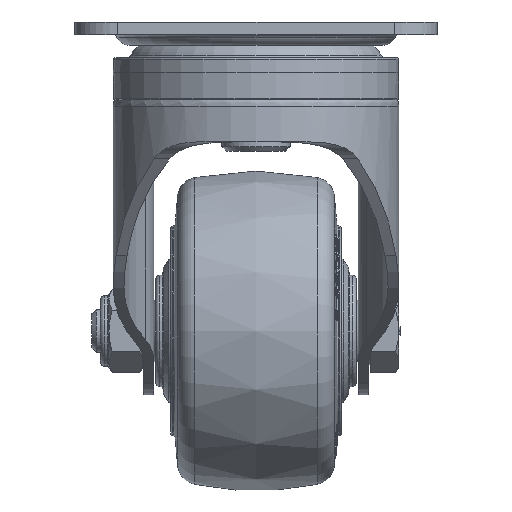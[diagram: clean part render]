
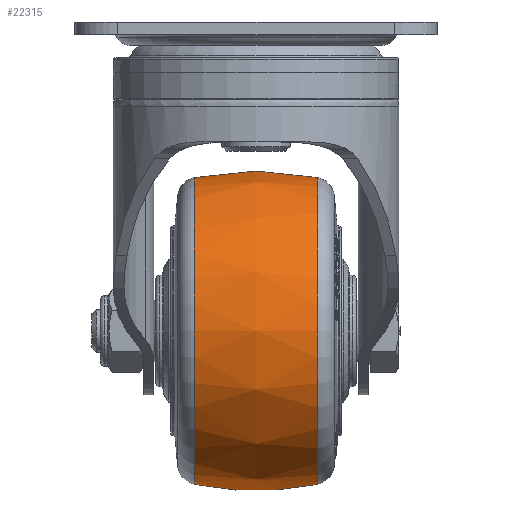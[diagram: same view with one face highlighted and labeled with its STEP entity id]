
A CAD part, left-side view. The second image highlights one B-rep face of the part: STEP entity #22315.
In plain terms, the highlighted free-form (B-spline) face has degree [2, 2] with [3, 9] control points.
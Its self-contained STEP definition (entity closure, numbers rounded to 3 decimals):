
#15=(
BOUNDED_SURFACE()
B_SPLINE_SURFACE(2,2,((#42283,#42284,#42285,#42286,#42287,#42288,#42289,
#42290,#42291),(#42292,#42293,#42294,#42295,#42296,#42297,#42298,#42299,
#42300),(#42301,#42302,#42303,#42304,#42305,#42306,#42307,#42308,#42309)),
 .UNSPECIFIED.,.F.,.T.,.F.)
B_SPLINE_SURFACE_WITH_KNOTS((3,3),(3,2,2,2,3),(-0.208,0.208),
(-3.142,-1.571,0.,1.571,3.142),
 .UNSPECIFIED.)
GEOMETRIC_REPRESENTATION_ITEM()
RATIONAL_B_SPLINE_SURFACE(((1.,0.707,1.,0.707,1.,
0.707,1.,0.707,1.),(0.978,0.692,
0.978,0.692,0.978,0.692,
0.978,0.692,0.978),(1.,0.707,
1.,0.707,1.,0.707,1.,0.707,1.)))
REPRESENTATION_ITEM('')
SURFACE()
);
#7143=FACE_OUTER_BOUND('',#8499,.T.);
#8499=EDGE_LOOP('',(#20984,#20985,#20986,#20987));
#8813=CIRCLE('',#23448,35.992);
#8832=CIRCLE('',#23476,35.992);
#8834=CIRCLE('',#23478,70.);
#11024=VERTEX_POINT('',#42233);
#11039=VERTEX_POINT('',#42280);
#14336=EDGE_CURVE('',#11024,#11024,#8813,.T.);
#14358=EDGE_CURVE('',#11039,#11039,#8832,.T.);
#14360=EDGE_CURVE('',#11024,#11039,#8834,.T.);
#20984=ORIENTED_EDGE('',*,*,#14336,.F.);
#20985=ORIENTED_EDGE('',*,*,#14360,.T.);
#20986=ORIENTED_EDGE('',*,*,#14358,.T.);
#20987=ORIENTED_EDGE('',*,*,#14360,.F.);
#22315=ADVANCED_FACE('',(#7143),#15,.F.);
#23448=AXIS2_PLACEMENT_3D('',#42235,#27283,#27284);
#23476=AXIS2_PLACEMENT_3D('',#42281,#27342,#27343);
#23478=AXIS2_PLACEMENT_3D('',#42310,#27346,#27347);
#27283=DIRECTION('center_axis',(0.,-1.,0.));
#27284=DIRECTION('ref_axis',(0.,0.,
1.));
#27342=DIRECTION('center_axis',(0.,-1.,0.));
#27343=DIRECTION('ref_axis',(0.,0.,
1.));
#27346=DIRECTION('center_axis',(1.,0.,0.));
#27347=DIRECTION('ref_axis',(0.,0.,
-1.));
#42233=CARTESIAN_POINT('',(40.,-14.451,-107.292));
#42235=CARTESIAN_POINT('Origin',(40.,-14.451,-71.3));
#42280=CARTESIAN_POINT('',(40.,14.451,-107.292));
#42281=CARTESIAN_POINT('Origin',(40.,14.451,-71.3));
#42283=CARTESIAN_POINT('Ctrl Pts',(40.,14.451,-107.292));
#42284=CARTESIAN_POINT('Ctrl Pts',(75.992,14.451,-107.292));
#42285=CARTESIAN_POINT('Ctrl Pts',(75.992,14.451,-71.3));
#42286=CARTESIAN_POINT('Ctrl Pts',(75.992,14.451,-35.308));
#42287=CARTESIAN_POINT('Ctrl Pts',(40.,14.451,-35.308));
#42288=CARTESIAN_POINT('Ctrl Pts',(4.008,14.451,-35.308));
#42289=CARTESIAN_POINT('Ctrl Pts',(4.008,14.451,-71.3));
#42290=CARTESIAN_POINT('Ctrl Pts',(4.008,14.451,-107.292));
#42291=CARTESIAN_POINT('Ctrl Pts',(40.,14.451,-107.292));
#42292=CARTESIAN_POINT('Ctrl Pts',(40.,0.,
-110.341));
#42293=CARTESIAN_POINT('Ctrl Pts',(79.041,0.,
-110.341));
#42294=CARTESIAN_POINT('Ctrl Pts',(79.041,0.,
-71.3));
#42295=CARTESIAN_POINT('Ctrl Pts',(79.041,0.,
-32.259));
#42296=CARTESIAN_POINT('Ctrl Pts',(40.,0.,
-32.259));
#42297=CARTESIAN_POINT('Ctrl Pts',(0.959,0.,
-32.259));
#42298=CARTESIAN_POINT('Ctrl Pts',(0.959,0.,
-71.3));
#42299=CARTESIAN_POINT('Ctrl Pts',(0.959,0.,
-110.341));
#42300=CARTESIAN_POINT('Ctrl Pts',(40.,0.,
-110.341));
#42301=CARTESIAN_POINT('Ctrl Pts',(40.,-14.451,-107.292));
#42302=CARTESIAN_POINT('Ctrl Pts',(75.992,-14.451,-107.292));
#42303=CARTESIAN_POINT('Ctrl Pts',(75.992,-14.451,-71.3));
#42304=CARTESIAN_POINT('Ctrl Pts',(75.992,-14.451,-35.308));
#42305=CARTESIAN_POINT('Ctrl Pts',(40.,-14.451,-35.308));
#42306=CARTESIAN_POINT('Ctrl Pts',(4.008,-14.451,-35.308));
#42307=CARTESIAN_POINT('Ctrl Pts',(4.008,-14.451,-71.3));
#42308=CARTESIAN_POINT('Ctrl Pts',(4.008,-14.451,-107.292));
#42309=CARTESIAN_POINT('Ctrl Pts',(40.,-14.451,-107.292));
#42310=CARTESIAN_POINT('Origin',(40.,0.,
-38.8));
